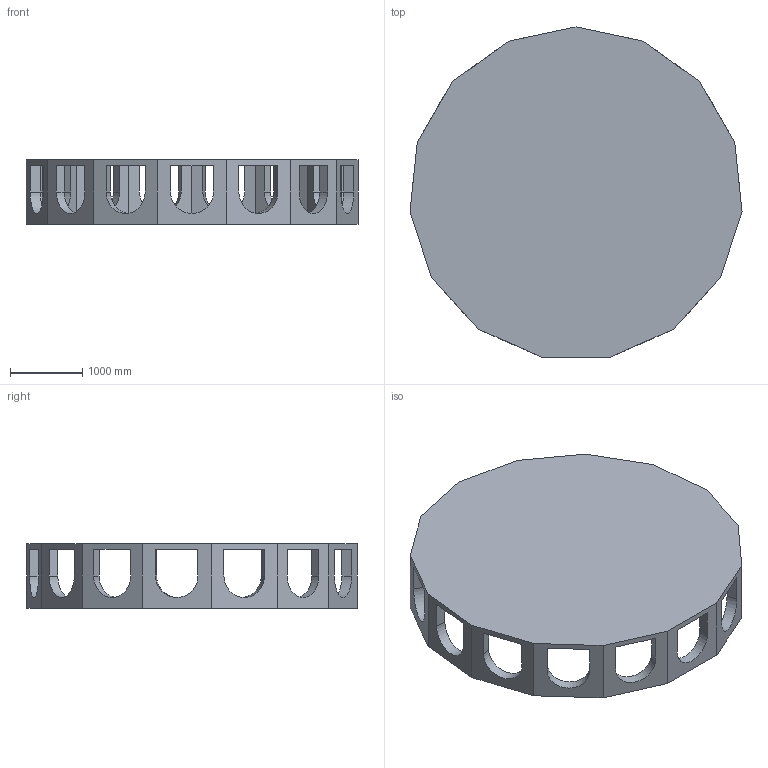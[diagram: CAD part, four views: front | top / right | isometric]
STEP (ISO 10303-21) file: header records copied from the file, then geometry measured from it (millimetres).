
FILE_DESCRIPTION (( 'STEP AP203' ), '1' );
FILE_NAME ('Doll House Base Rev 1.STEP', '2018-08-04T15:09:48', ( '' ), ( '' ), 'SwSTEP 2.0', 'SolidWorks 2017', '' );
FILE_SCHEMA (( 'CONFIG_CONTROL_DESIGN' ));
Length unit declared in the file: centimetre
Products named in the file (1): Doll House Base Rev 1
Bounding box: 4586.07 x 4560.95 x 885 mm (x, y, z)
Volume: 2076770692.4 mm3; surface area: 50424679.4 mm2
Topology: 1 solids, 1 shells, 78 faces, 270 edges, 180 vertices
Faces by surface type: plane 63, cylinder 15
Entity records: 3021 total; most frequent: ORIENTED_EDGE 540, CARTESIAN_POINT 529, DIRECTION 458, EDGE_CURVE 270, VECTOR 240, LINE 240, VERTEX_POINT 180, AXIS2_PLACEMENT_3D 109
